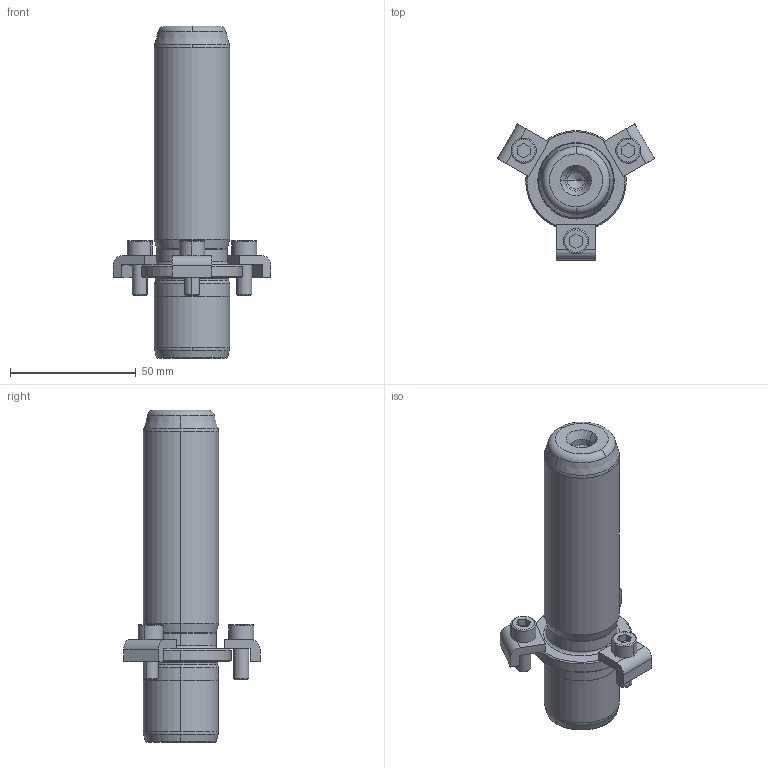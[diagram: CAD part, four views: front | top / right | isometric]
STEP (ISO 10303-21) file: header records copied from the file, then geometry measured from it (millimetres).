
FILE_DESCRIPTION((''),'2;1');
FILE_NAME('P21_030_100.stp','2008-12-23T09:54:13',(''),(''),'Mechanical Desktop 2009','Mechanical Desktop 2009',', , ');
FILE_SCHEMA(('CONFIG_CONTROL_DESIGN'));
Length unit declared in the file: millimetre
Products named in the file (2): Product; blmdl1
Assembly tree (1 placements, depth 2):
  Product
    blmdl1
Bounding box: 62.51 x 54.13 x 132 mm (x, y, z)
Volume: 97313.4 mm3; surface area: 20373 mm2
Topology: 7 solids, 7 shells, 163 faces, 399 edges, 257 vertices
Faces by surface type: plane 59, cylinder 44, cone 32, torus 14, bspline 14
Entity records: 5517 total; most frequent: CARTESIAN_POINT 1433, DIRECTION 908, ORIENTED_EDGE 790, EDGE_CURVE 395, AXIS2_PLACEMENT_3D 362, VERTEX_POINT 257, CIRCLE 211, VECTOR 184
